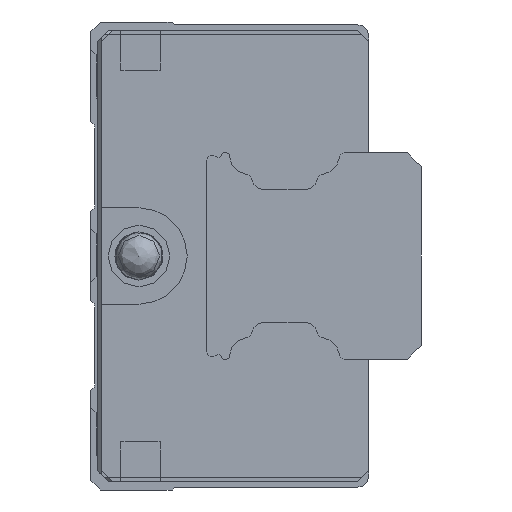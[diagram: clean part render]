
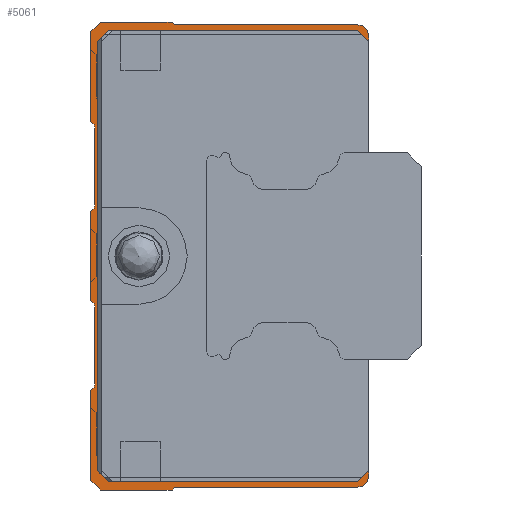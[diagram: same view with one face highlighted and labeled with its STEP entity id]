
A CAD part, left-side view. The second image highlights one B-rep face of the part: STEP entity #5061.
In plain terms, the highlighted planar face has unit normal (-1, 0, 0).
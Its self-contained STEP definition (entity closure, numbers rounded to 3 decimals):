
#58=LINE('',#7806,#374);
#67=LINE('',#7825,#383);
#74=LINE('',#7838,#390);
#100=LINE('',#7894,#416);
#108=LINE('',#7910,#424);
#114=LINE('',#7922,#430);
#139=LINE('',#7973,#455);
#144=LINE('',#7982,#460);
#146=LINE('',#7986,#462);
#150=LINE('',#7993,#466);
#154=LINE('',#8002,#470);
#157=LINE('',#8008,#473);
#161=LINE('',#8020,#477);
#165=LINE('',#8035,#481);
#169=LINE('',#8047,#485);
#172=LINE('',#8053,#488);
#175=LINE('',#8059,#491);
#178=LINE('',#8067,#494);
#181=LINE('',#8073,#497);
#185=LINE('',#8085,#501);
#189=LINE('',#8097,#505);
#192=LINE('',#8105,#508);
#195=LINE('',#8111,#511);
#199=LINE('',#8123,#515);
#203=LINE('',#8135,#519);
#206=LINE('',#8143,#522);
#374=VECTOR('',#6142,1000.);
#383=VECTOR('',#6157,1000.);
#390=VECTOR('',#6168,1000.);
#416=VECTOR('',#6208,1000.);
#424=VECTOR('',#6220,1000.);
#430=VECTOR('',#6232,1000.);
#455=VECTOR('',#6273,1000.);
#460=VECTOR('',#6280,1000.);
#462=VECTOR('',#6284,1000.);
#466=VECTOR('',#6290,1000.);
#470=VECTOR('',#6296,1000.);
#473=VECTOR('',#6301,1000.);
#477=VECTOR('',#6313,1000.);
#481=VECTOR('',#6331,1000.);
#485=VECTOR('',#6343,1000.);
#488=VECTOR('',#6348,1000.);
#491=VECTOR('',#6353,1000.);
#494=VECTOR('',#6360,1000.);
#497=VECTOR('',#6365,1000.);
#501=VECTOR('',#6377,1000.);
#505=VECTOR('',#6389,1000.);
#508=VECTOR('',#6396,1000.);
#511=VECTOR('',#6401,1000.);
#515=VECTOR('',#6413,1000.);
#519=VECTOR('',#6425,1000.);
#522=VECTOR('',#6432,1000.);
#724=PLANE('',#5477);
#1327=ORIENTED_EDGE('',*,*,#2368,.T.);
#1328=ORIENTED_EDGE('',*,*,#2375,.T.);
#1329=ORIENTED_EDGE('',*,*,#2448,.F.);
#1330=ORIENTED_EDGE('',*,*,#2470,.F.);
#1331=ORIENTED_EDGE('',*,*,#2467,.F.);
#1332=ORIENTED_EDGE('',*,*,#2464,.T.);
#1333=ORIENTED_EDGE('',*,*,#2461,.F.);
#1334=ORIENTED_EDGE('',*,*,#2458,.F.);
#1335=ORIENTED_EDGE('',*,*,#2454,.F.);
#1336=ORIENTED_EDGE('',*,*,#2529,.F.);
#1337=ORIENTED_EDGE('',*,*,#2525,.F.);
#1338=ORIENTED_EDGE('',*,*,#2522,.T.);
#1339=ORIENTED_EDGE('',*,*,#2519,.F.);
#1340=ORIENTED_EDGE('',*,*,#2516,.T.);
#1341=ORIENTED_EDGE('',*,*,#2513,.F.);
#1342=ORIENTED_EDGE('',*,*,#2510,.F.);
#1343=ORIENTED_EDGE('',*,*,#2506,.F.);
#1344=ORIENTED_EDGE('',*,*,#2503,.T.);
#1345=ORIENTED_EDGE('',*,*,#2500,.F.);
#1346=ORIENTED_EDGE('',*,*,#2497,.T.);
#1347=ORIENTED_EDGE('',*,*,#2494,.F.);
#1348=ORIENTED_EDGE('',*,*,#2491,.F.);
#1349=ORIENTED_EDGE('',*,*,#2487,.F.);
#1350=ORIENTED_EDGE('',*,*,#2484,.F.);
#1351=ORIENTED_EDGE('',*,*,#2481,.F.);
#1352=ORIENTED_EDGE('',*,*,#2478,.T.);
#1353=ORIENTED_EDGE('',*,*,#2475,.F.);
#1354=ORIENTED_EDGE('',*,*,#2472,.F.);
#1355=ORIENTED_EDGE('',*,*,#2450,.F.);
#1356=ORIENTED_EDGE('',*,*,#2410,.T.);
#1357=ORIENTED_EDGE('',*,*,#2417,.T.);
#1358=ORIENTED_EDGE('',*,*,#2402,.T.);
#1359=ORIENTED_EDGE('',*,*,#2443,.T.);
#1360=ORIENTED_EDGE('',*,*,#2358,.T.);
#2358=EDGE_CURVE('',#3008,#3007,#58,.T.);
#2368=EDGE_CURVE('',#3007,#3014,#67,.T.);
#2375=EDGE_CURVE('',#3014,#3018,#74,.T.);
#2402=EDGE_CURVE('',#3042,#3041,#100,.T.);
#2410=EDGE_CURVE('',#3048,#3047,#108,.T.);
#2417=EDGE_CURVE('',#3047,#3042,#114,.T.);
#2443=EDGE_CURVE('',#3041,#3008,#139,.T.);
#2448=EDGE_CURVE('',#3071,#3018,#144,.T.);
#2450=EDGE_CURVE('',#3048,#3073,#146,.T.);
#2454=EDGE_CURVE('',#3075,#3076,#150,.T.);
#2458=EDGE_CURVE('',#3076,#3079,#154,.T.);
#2461=EDGE_CURVE('',#3079,#3081,#157,.T.);
#2464=EDGE_CURVE('',#3083,#3081,#3492,.T.);
#2467=EDGE_CURVE('',#3083,#3085,#161,.T.);
#2470=EDGE_CURVE('',#3085,#3071,#3494,.T.);
#2472=EDGE_CURVE('',#3073,#3087,#3496,.T.);
#2475=EDGE_CURVE('',#3087,#3089,#165,.T.);
#2478=EDGE_CURVE('',#3091,#3089,#3498,.T.);
#2481=EDGE_CURVE('',#3091,#3093,#169,.T.);
#2484=EDGE_CURVE('',#3093,#3095,#172,.T.);
#2487=EDGE_CURVE('',#3095,#3097,#175,.T.);
#2491=EDGE_CURVE('',#3097,#3100,#178,.T.);
#2494=EDGE_CURVE('',#3100,#3102,#181,.T.);
#2497=EDGE_CURVE('',#3104,#3102,#3501,.T.);
#2500=EDGE_CURVE('',#3104,#3106,#185,.T.);
#2503=EDGE_CURVE('',#3108,#3106,#3503,.T.);
#2506=EDGE_CURVE('',#3108,#3110,#189,.T.);
#2510=EDGE_CURVE('',#3110,#3113,#192,.T.);
#2513=EDGE_CURVE('',#3113,#3115,#195,.T.);
#2516=EDGE_CURVE('',#3117,#3115,#3506,.T.);
#2519=EDGE_CURVE('',#3117,#3119,#199,.T.);
#2522=EDGE_CURVE('',#3121,#3119,#3508,.T.);
#2525=EDGE_CURVE('',#3121,#3123,#203,.T.);
#2529=EDGE_CURVE('',#3123,#3075,#206,.T.);
#3007=VERTEX_POINT('',#7805);
#3008=VERTEX_POINT('',#7807);
#3014=VERTEX_POINT('',#7824);
#3018=VERTEX_POINT('',#7837);
#3041=VERTEX_POINT('',#7893);
#3042=VERTEX_POINT('',#7895);
#3047=VERTEX_POINT('',#7909);
#3048=VERTEX_POINT('',#7911);
#3071=VERTEX_POINT('',#7981);
#3073=VERTEX_POINT('',#7987);
#3075=VERTEX_POINT('',#7994);
#3076=VERTEX_POINT('',#7995);
#3079=VERTEX_POINT('',#8003);
#3081=VERTEX_POINT('',#8009);
#3083=VERTEX_POINT('',#8015);
#3085=VERTEX_POINT('',#8021);
#3087=VERTEX_POINT('',#8030);
#3089=VERTEX_POINT('',#8036);
#3091=VERTEX_POINT('',#8042);
#3093=VERTEX_POINT('',#8048);
#3095=VERTEX_POINT('',#8054);
#3097=VERTEX_POINT('',#8060);
#3100=VERTEX_POINT('',#8068);
#3102=VERTEX_POINT('',#8074);
#3104=VERTEX_POINT('',#8080);
#3106=VERTEX_POINT('',#8086);
#3108=VERTEX_POINT('',#8092);
#3110=VERTEX_POINT('',#8098);
#3113=VERTEX_POINT('',#8106);
#3115=VERTEX_POINT('',#8112);
#3117=VERTEX_POINT('',#8118);
#3119=VERTEX_POINT('',#8124);
#3121=VERTEX_POINT('',#8130);
#3123=VERTEX_POINT('',#8136);
#3492=CIRCLE('',#5436,0.3);
#3494=CIRCLE('',#5440,0.8);
#3496=CIRCLE('',#5443,0.8);
#3498=CIRCLE('',#5447,0.3);
#3501=CIRCLE('',#5456,0.5);
#3503=CIRCLE('',#5460,0.5);
#3506=CIRCLE('',#5467,0.5);
#3508=CIRCLE('',#5471,0.5);
#3865=EDGE_LOOP('',(#1327,#1328,#1329,#1330,#1331,#1332,#1333,#1334,#1335,
#1336,#1337,#1338,#1339,#1340,#1341,#1342,#1343,#1344,#1345,#1346,#1347,
#1348,#1349,#1350,#1351,#1352,#1353,#1354,#1355,#1356,#1357,#1358,#1359,
#1360));
#4467=FACE_BOUND('',#3865,.T.);
#5061=ADVANCED_FACE('',(#4467),#724,.F.);
#5436=AXIS2_PLACEMENT_3D('',#8014,#6306,#6307);
#5440=AXIS2_PLACEMENT_3D('',#8026,#6318,#6319);
#5443=AXIS2_PLACEMENT_3D('',#8029,#6324,#6325);
#5447=AXIS2_PLACEMENT_3D('',#8041,#6336,#6337);
#5456=AXIS2_PLACEMENT_3D('',#8079,#6370,#6371);
#5460=AXIS2_PLACEMENT_3D('',#8091,#6382,#6383);
#5467=AXIS2_PLACEMENT_3D('',#8117,#6406,#6407);
#5471=AXIS2_PLACEMENT_3D('',#8129,#6418,#6419);
#5477=AXIS2_PLACEMENT_3D('',#8146,#6436,#6437);
#6142=DIRECTION('',(0.,-0.707,0.707));
#6157=DIRECTION('',(0.,-1.,0.));
#6168=DIRECTION('',(0.,-0.707,-0.707));
#6208=DIRECTION('',(0.,0.707,0.707));
#6220=DIRECTION('',(0.,0.707,-0.707));
#6232=DIRECTION('',(0.,1.,0.));
#6273=DIRECTION('',(0.,0.,1.));
#6280=DIRECTION('',(0.,0.,-1.));
#6284=DIRECTION('',(0.,0.,-1.));
#6290=DIRECTION('',(0.,-0.707,0.707));
#6296=DIRECTION('',(0.,-1.,0.));
#6301=DIRECTION('',(0.,-0.707,-0.707));
#6306=DIRECTION('',(1.,0.,0.));
#6307=DIRECTION('',(0.,0.,-1.));
#6313=DIRECTION('',(0.,-1.,0.));
#6318=DIRECTION('',(1.,0.,0.));
#6319=DIRECTION('',(0.,0.,-1.));
#6324=DIRECTION('',(1.,0.,0.));
#6325=DIRECTION('',(0.,0.,-1.));
#6331=DIRECTION('',(0.,1.,0.));
#6336=DIRECTION('',(1.,0.,0.));
#6337=DIRECTION('',(0.,0.,-1.));
#6343=DIRECTION('',(0.,0.707,-0.707));
#6348=DIRECTION('',(0.,1.,0.));
#6353=DIRECTION('',(0.,0.707,0.707));
#6360=DIRECTION('',(0.,0.,1.));
#6365=DIRECTION('',(0.,-0.707,0.707));
#6370=DIRECTION('',(1.,0.,0.));
#6371=DIRECTION('',(0.,0.,-1.));
#6377=DIRECTION('',(0.,0.,1.));
#6382=DIRECTION('',(1.,0.,0.));
#6383=DIRECTION('',(0.,0.,-1.));
#6389=DIRECTION('',(0.,0.707,0.707));
#6396=DIRECTION('',(0.,0.,1.));
#6401=DIRECTION('',(0.,-0.707,0.707));
#6406=DIRECTION('',(1.,0.,0.));
#6407=DIRECTION('',(0.,0.,-1.));
#6413=DIRECTION('',(0.,0.,1.));
#6418=DIRECTION('',(1.,0.,0.));
#6419=DIRECTION('',(0.,0.,-1.));
#6425=DIRECTION('',(0.,0.707,0.707));
#6432=DIRECTION('',(0.,0.,1.));
#6436=DIRECTION('',(1.,0.,0.));
#6437=DIRECTION('',(0.,0.,-1.));
#7805=CARTESIAN_POINT('',(-10.8,18.9,16.4));
#7806=CARTESIAN_POINT('',(-10.8,19.7,15.6));
#7807=CARTESIAN_POINT('',(-10.8,19.7,15.6));
#7824=CARTESIAN_POINT('',(-10.8,0.8,16.4));
#7825=CARTESIAN_POINT('',(-10.8,18.9,16.4));
#7837=CARTESIAN_POINT('',(-10.8,0.,15.6));
#7838=CARTESIAN_POINT('',(-10.8,0.8,16.4));
#7893=CARTESIAN_POINT('',(-10.8,19.7,-15.6));
#7894=CARTESIAN_POINT('',(-10.8,18.9,-16.4));
#7895=CARTESIAN_POINT('',(-10.8,18.9,-16.4));
#7909=CARTESIAN_POINT('',(-10.8,0.8,-16.4));
#7910=CARTESIAN_POINT('',(-10.8,0.,-15.6));
#7911=CARTESIAN_POINT('',(-10.8,0.,-15.6));
#7922=CARTESIAN_POINT('',(-10.8,0.8,-16.4));
#7973=CARTESIAN_POINT('',(-10.8,19.7,-15.6));
#7981=CARTESIAN_POINT('',(-10.8,0.,16.));
#7982=CARTESIAN_POINT('',(-10.8,0.,16.));
#7986=CARTESIAN_POINT('',(-10.8,0.,16.));
#7987=CARTESIAN_POINT('',(-10.8,0.,-16.));
#7993=CARTESIAN_POINT('',(-10.8,20.2,16.3));
#7994=CARTESIAN_POINT('',(-10.8,20.2,16.3));
#7995=CARTESIAN_POINT('',(-10.8,19.5,17.));
#8002=CARTESIAN_POINT('',(-10.8,19.5,17.));
#8003=CARTESIAN_POINT('',(-10.8,14.3,17.));
#8008=CARTESIAN_POINT('',(-10.8,14.3,17.));
#8009=CARTESIAN_POINT('',(-10.8,14.188,16.888));
#8014=CARTESIAN_POINT('',(-10.8,13.976,17.1));
#8015=CARTESIAN_POINT('',(-10.8,13.976,16.8));
#8020=CARTESIAN_POINT('',(-10.8,13.976,16.8));
#8021=CARTESIAN_POINT('',(-10.8,0.8,16.8));
#8026=CARTESIAN_POINT('',(-10.8,0.8,16.));
#8029=CARTESIAN_POINT('',(-10.8,0.8,-16.));
#8030=CARTESIAN_POINT('',(-10.8,0.8,-16.8));
#8035=CARTESIAN_POINT('',(-10.8,0.8,-16.8));
#8036=CARTESIAN_POINT('',(-10.8,13.976,-16.8));
#8041=CARTESIAN_POINT('',(-10.8,13.976,-17.1));
#8042=CARTESIAN_POINT('',(-10.8,14.188,-16.888));
#8047=CARTESIAN_POINT('',(-10.8,14.188,-16.888));
#8048=CARTESIAN_POINT('',(-10.8,14.3,-17.));
#8053=CARTESIAN_POINT('',(-10.8,14.3,-17.));
#8054=CARTESIAN_POINT('',(-10.8,19.5,-17.));
#8059=CARTESIAN_POINT('',(-10.8,19.5,-17.));
#8060=CARTESIAN_POINT('',(-10.8,20.2,-16.3));
#8067=CARTESIAN_POINT('',(-10.8,20.2,-16.3));
#8068=CARTESIAN_POINT('',(-10.8,20.2,-9.8));
#8073=CARTESIAN_POINT('',(-10.8,20.2,-9.8));
#8074=CARTESIAN_POINT('',(-10.8,20.046,-9.646));
#8079=CARTESIAN_POINT('',(-10.8,20.4,-9.293));
#8080=CARTESIAN_POINT('',(-10.8,19.9,-9.293));
#8085=CARTESIAN_POINT('',(-10.8,19.9,-9.293));
#8086=CARTESIAN_POINT('',(-10.8,19.9,-3.707));
#8091=CARTESIAN_POINT('',(-10.8,20.4,-3.707));
#8092=CARTESIAN_POINT('',(-10.8,20.046,-3.354));
#8097=CARTESIAN_POINT('',(-10.8,20.046,-3.354));
#8098=CARTESIAN_POINT('',(-10.8,20.2,-3.2));
#8105=CARTESIAN_POINT('',(-10.8,20.2,-3.2));
#8106=CARTESIAN_POINT('',(-10.8,20.2,3.2));
#8111=CARTESIAN_POINT('',(-10.8,20.2,3.2));
#8112=CARTESIAN_POINT('',(-10.8,20.046,3.354));
#8117=CARTESIAN_POINT('',(-10.8,20.4,3.707));
#8118=CARTESIAN_POINT('',(-10.8,19.9,3.707));
#8123=CARTESIAN_POINT('',(-10.8,19.9,3.707));
#8124=CARTESIAN_POINT('',(-10.8,19.9,9.293));
#8129=CARTESIAN_POINT('',(-10.8,20.4,9.293));
#8130=CARTESIAN_POINT('',(-10.8,20.046,9.646));
#8135=CARTESIAN_POINT('',(-10.8,20.046,9.646));
#8136=CARTESIAN_POINT('',(-10.8,20.2,9.8));
#8143=CARTESIAN_POINT('',(-10.8,20.2,9.8));
#8146=CARTESIAN_POINT('',(-10.8,13.976,17.1));
